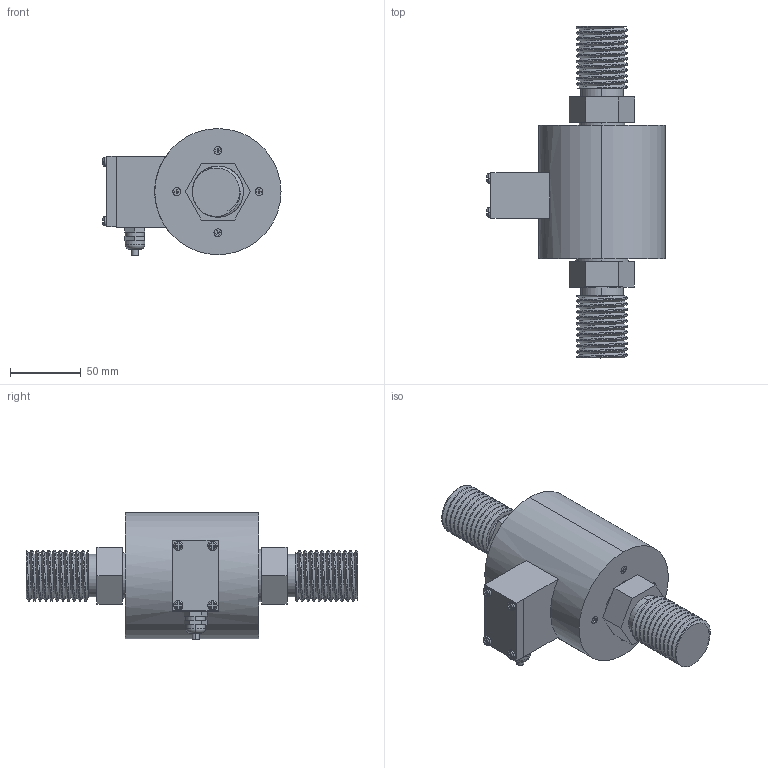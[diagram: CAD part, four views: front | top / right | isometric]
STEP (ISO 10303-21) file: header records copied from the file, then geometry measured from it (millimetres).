
FILE_DESCRIPTION (( 'STEP AP214' ), '1' );
FILE_NAME ('KT1101_K_50KN.STEP', '2014-04-24T10:06:07', ( '' ), ( '' ), 'SwSTEP 2.0', 'SolidWorks 2012', '' );
FILE_SCHEMA (( 'AUTOMOTIVE_DESIGN' ));
Length unit declared in the file: metre
Products named in the file (1): KT1101_K_50KN
Bounding box: 125.5 x 234 x 89.5 mm (x, y, z)
Volume: 786351.1 mm3; surface area: 72209.3 mm2
Topology: 1 solids, 1 shells, 257 faces, 622 edges, 395 vertices
Faces by surface type: plane 160, cylinder 75, torus 18, bspline 4
Entity records: 13226 total; most frequent: CARTESIAN_POINT 6907, ORIENTED_EDGE 1244, DIRECTION 1120, EDGE_CURVE 622, VERTEX_POINT 395, AXIS2_PLACEMENT_3D 378, VECTOR 364, LINE 364
